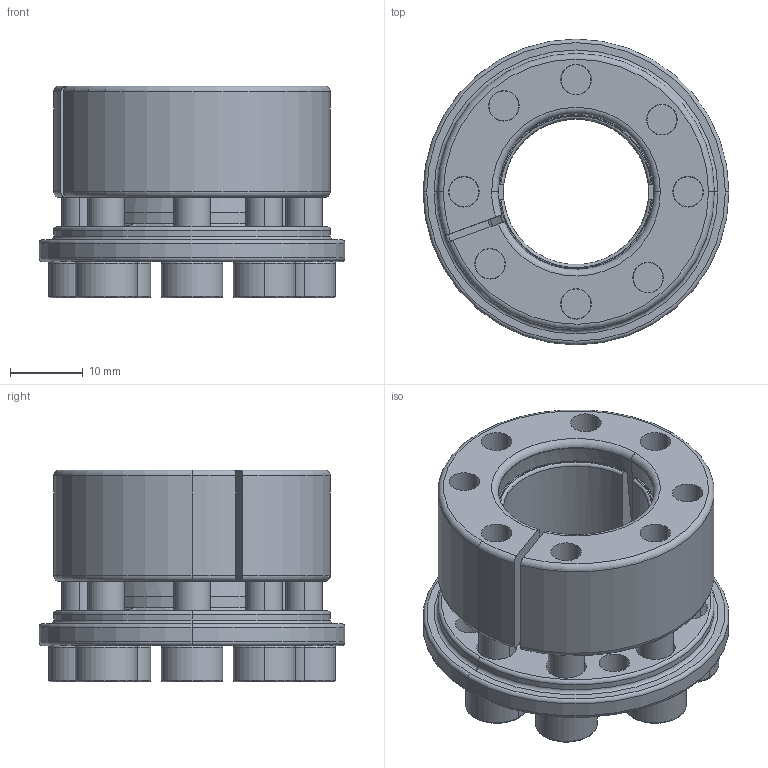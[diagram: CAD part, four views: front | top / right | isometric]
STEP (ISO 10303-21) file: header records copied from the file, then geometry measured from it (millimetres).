
FILE_DESCRIPTION (( 'STEP AP203' ), '1' );
FILE_NAME ('SAPL-A-20-38.STEP', '2013-07-22T07:10:54', ( 'MYCOM' ), ( '' ), 'SwSTEP 2.0', 'SolidWorks 2012', '' );
FILE_SCHEMA (( 'CONFIG_CONTROL_DESIGN' ));
Length unit declared in the file: millimetre
Products named in the file (1): SAPL-A-20-38
Bounding box: 42 x 42 x 29.1 mm (x, y, z)
Volume: 19073.6 mm3; surface area: 11423.6 mm2
Topology: 1 solids, 1 shells, 374 faces, 915 edges, 540 vertices
Faces by surface type: plane 135, cylinder 99, torus 79, cone 61
Entity records: 11273 total; most frequent: CARTESIAN_POINT 2170, DIRECTION 2080, ORIENTED_EDGE 1798, EDGE_CURVE 899, AXIS2_PLACEMENT_3D 856, VERTEX_POINT 540, CIRCLE 481, EDGE_LOOP 417
